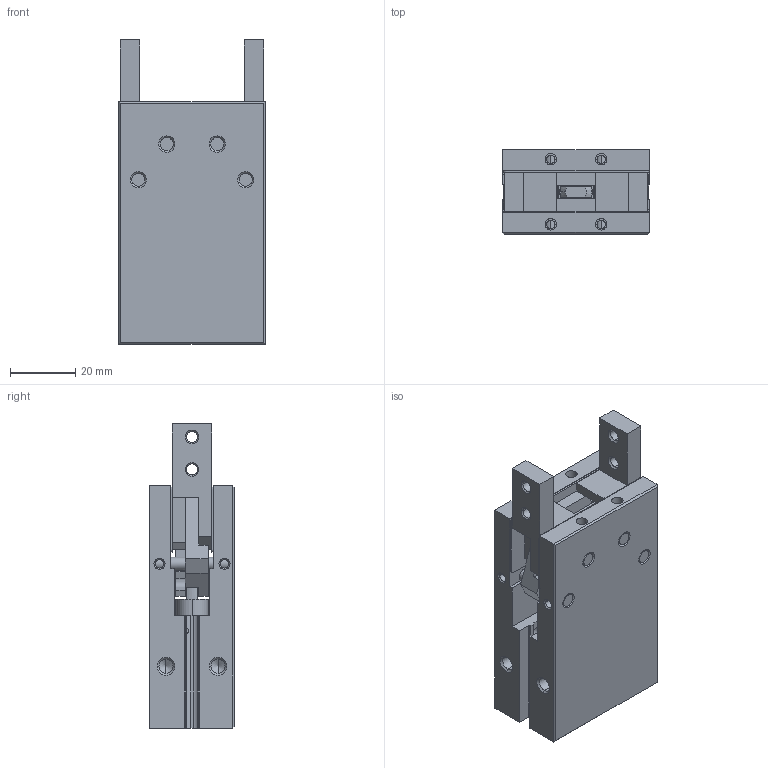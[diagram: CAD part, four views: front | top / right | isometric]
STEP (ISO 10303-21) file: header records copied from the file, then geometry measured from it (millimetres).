
FILE_DESCRIPTION (( 'STEP AP214' ), '1' );
FILE_NAME ('MCHB-20.STEP', '2013-10-22T20:48:36', ( 'user' ), ( '' ), 'SwSTEP 2.0', 'SolidWorks 2009', '' );
FILE_SCHEMA (( 'AUTOMOTIVE_DESIGN' ));
Length unit declared in the file: millimetre
Products named in the file (1): MCHB-20
Bounding box: 45 x 26 x 93.5 mm (x, y, z)
Volume: 71062.3 mm3; surface area: 25014.2 mm2
Topology: 1 solids, 6 shells, 406 faces, 1053 edges, 660 vertices
Faces by surface type: plane 169, cylinder 162, cone 75
Entity records: 12992 total; most frequent: CARTESIAN_POINT 2762, DIRECTION 2161, ORIENTED_EDGE 2058, EDGE_CURVE 1029, AXIS2_PLACEMENT_3D 769, VERTEX_POINT 658, VECTOR 623, LINE 623
